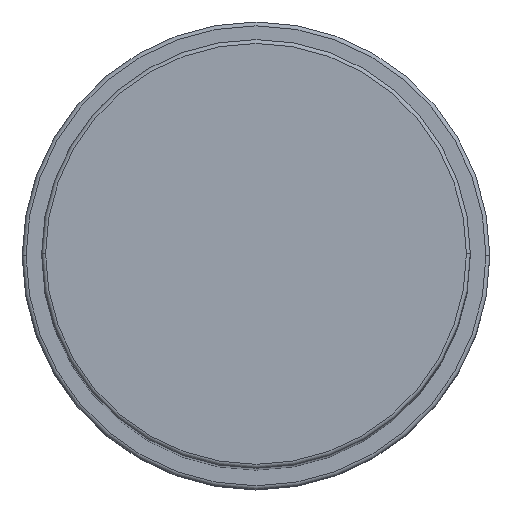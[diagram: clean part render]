
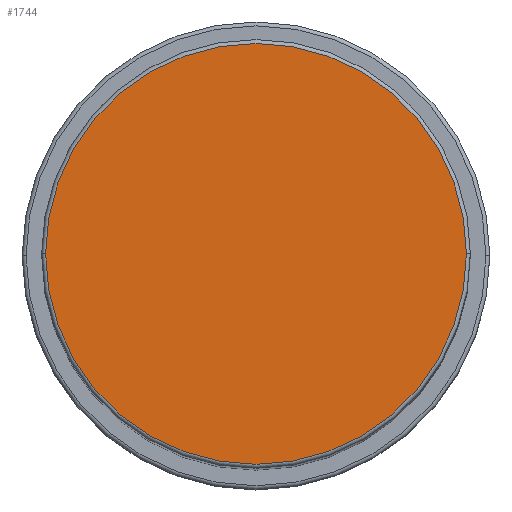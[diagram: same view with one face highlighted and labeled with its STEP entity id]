
A CAD part, top view. The second image highlights one B-rep face of the part: STEP entity #1744.
In plain terms, the highlighted planar face has unit normal (0, 0, 1).
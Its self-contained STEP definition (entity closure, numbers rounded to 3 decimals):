
#100 = CARTESIAN_POINT ( 'NONE',  ( 0., 0., 153. ) ) ;
#104 = PLANE ( 'NONE',  #1563 ) ;
#236 = DIRECTION ( 'NONE',  ( 1., 0., 0. ) ) ;
#327 = FACE_OUTER_BOUND ( 'NONE', #1567, .T. ) ;
#432 = DIRECTION ( 'NONE',  ( 0., 0., 1. ) ) ;
#526 = CARTESIAN_POINT ( 'NONE',  ( -27., 0., 153. ) ) ;
#564 = CARTESIAN_POINT ( 'NONE',  ( 27., 0., 153. ) ) ;
#597 = DIRECTION ( 'NONE',  ( 1., 0., 0. ) ) ;
#666 = DIRECTION ( 'NONE',  ( 0., 0., 1. ) ) ;
#722 = ORIENTED_EDGE ( 'NONE', *, *, #1063, .T. ) ;
#770 = AXIS2_PLACEMENT_3D ( 'NONE', #1630, #432, #597 ) ;
#825 = ORIENTED_EDGE ( 'NONE', *, *, #1272, .T. ) ;
#948 = CIRCLE ( 'NONE', #1064, 27. ) ;
#1063 = EDGE_CURVE ( 'NONE', #1140, #1291, #948, .T. ) ;
#1064 = AXIS2_PLACEMENT_3D ( 'NONE', #100, #666, #1201 ) ;
#1140 = VERTEX_POINT ( 'NONE', #526 ) ;
#1201 = DIRECTION ( 'NONE',  ( 1., 0., 0. ) ) ;
#1272 = EDGE_CURVE ( 'NONE', #1291, #1140, #1537, .T. ) ;
#1291 = VERTEX_POINT ( 'NONE', #564 ) ;
#1344 = CARTESIAN_POINT ( 'NONE',  ( 0., 0., 153. ) ) ;
#1494 = DIRECTION ( 'NONE',  ( 0., 0., 1. ) ) ;
#1537 = CIRCLE ( 'NONE', #770, 27. ) ;
#1563 = AXIS2_PLACEMENT_3D ( 'NONE', #1344, #1494, #236 ) ;
#1567 = EDGE_LOOP ( 'NONE', ( #825, #722 ) ) ;
#1630 = CARTESIAN_POINT ( 'NONE',  ( 0., 0., 153. ) ) ;
#1744 = ADVANCED_FACE ( 'NONE', ( #327 ), #104, .T. ) ;
